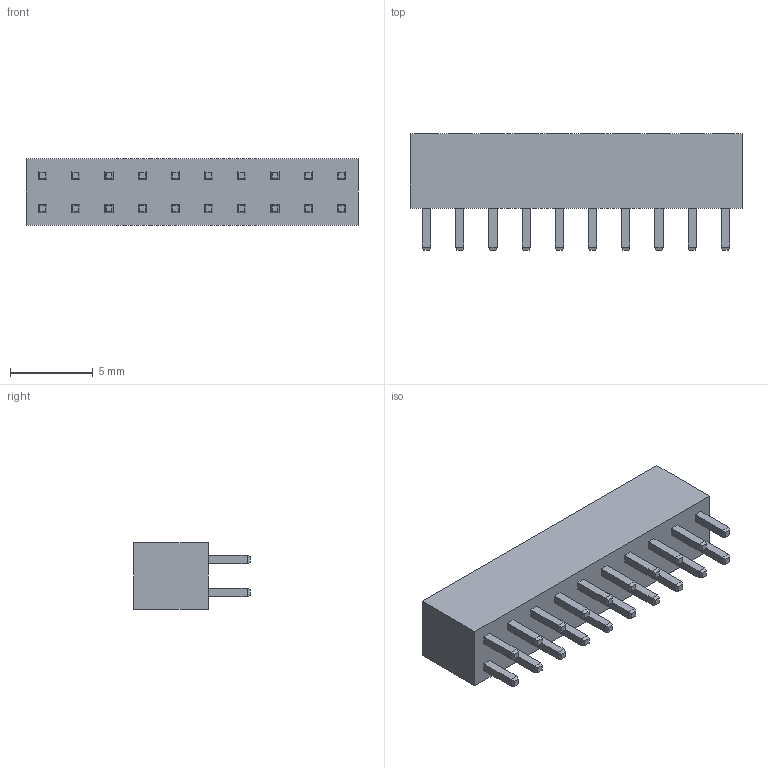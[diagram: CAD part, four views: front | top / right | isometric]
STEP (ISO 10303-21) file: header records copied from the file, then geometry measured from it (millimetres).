
FILE_DESCRIPTION (( 'STEP AP214' ), '1' );
FILE_NAME ('PBD2-20.STEP', '2011-05-17T10:34:22', ( 'vpeshkov' ), ( 'licard' ), 'SwSTEP 2.0', 'SolidWorks 2009', '' );
FILE_SCHEMA (( 'AUTOMOTIVE_DESIGN' ));
Length unit declared in the file: millimetre
Products named in the file (1): PBD2-20
Bounding box: 20 x 7.04 x 4 mm (x, y, z)
Volume: 317.6 mm3; surface area: 722.1 mm2
Topology: 1 solids, 1 shells, 366 faces, 812 edges, 488 vertices
Faces by surface type: plane 366
Entity records: 11690 total; most frequent: CARTESIAN_POINT 1667, ORIENTED_EDGE 1624, DIRECTION 1546, EDGE_CURVE 812, VECTOR 812, LINE 812, VERTEX_POINT 488, EDGE_LOOP 406
